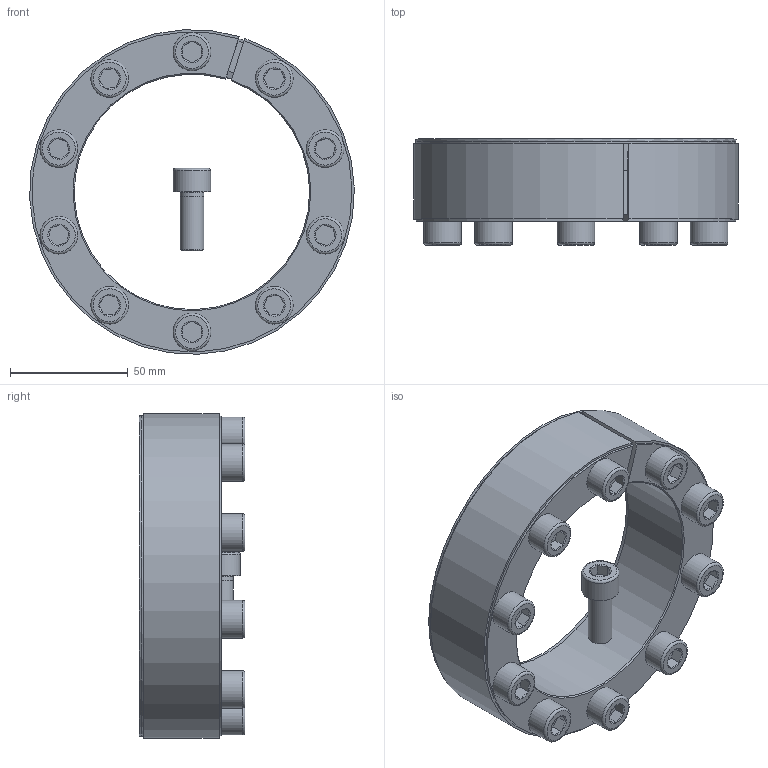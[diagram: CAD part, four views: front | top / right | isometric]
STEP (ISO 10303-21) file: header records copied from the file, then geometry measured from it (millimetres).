
FILE_DESCRIPTION( ( 'Unknown' ), '1' );
FILE_NAME( 'C:/Dokumente und Einstellungen/Sven/Desktop/homepage/cad - homepage/KBS52/KBS 52 - 100 x 138.stp', 'Unknown', ( 'Unknown' ), ( 'Unknown' ), 'XStep 1.0', 'Unknown', ' ' );
FILE_SCHEMA( ( 'automotive_design' ) );
Length unit declared in the file: millimetre
Products named in the file (3): Assem1; KBS 52 - 100 x 138; ISO EN DIN 4762 M10x25
Bounding box: 137.92 x 45 x 137.87 mm (x, y, z)
Volume: 478148.9 mm3; surface area: 120256.4 mm2
Topology: 13 solids, 13 shells, 335 faces, 657 edges, 390 vertices
Faces by surface type: plane 158, cone 83, cylinder 72, torus 22
Full cylindrical faces by diameter (mm): 9 x11, 10 x42, 16 x11, 136.175 x2
Entity records: 1797 total; most frequent: CARTESIAN_POINT 295, DIRECTION 279, ORIENTED_EDGE 204, AXIS2_PLACEMENT_3D 118, EDGE_CURVE 102, EDGE_LOOP 100, VERTEX_POINT 74, FACE_OUTER_BOUND 72
